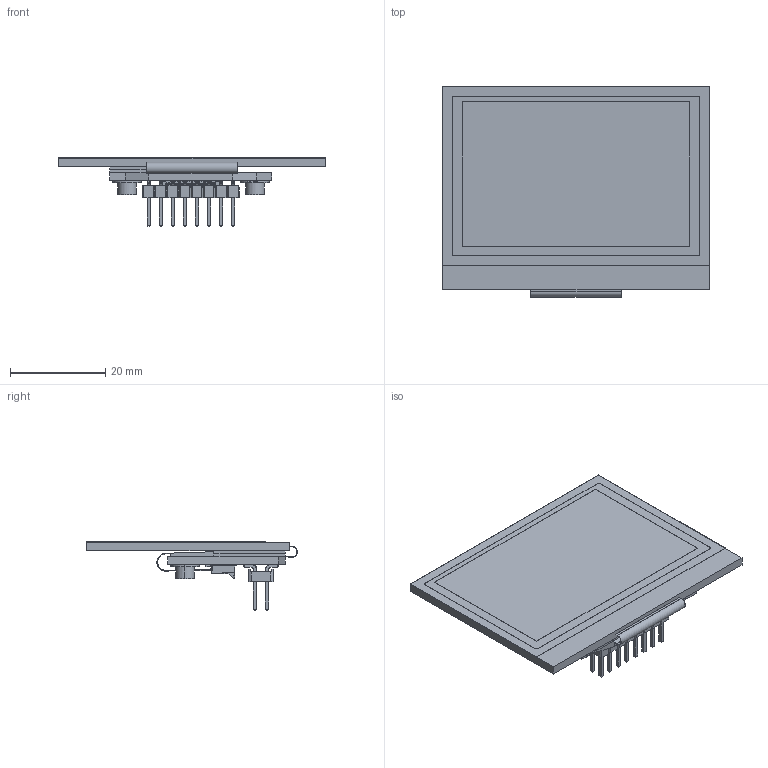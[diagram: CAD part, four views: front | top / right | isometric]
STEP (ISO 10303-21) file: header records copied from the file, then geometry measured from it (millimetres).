
FILE_DESCRIPTION (( 'STEP AP214' ), '1' );
FILE_NAME ('CFAG12864U3NFH-E1-1.STEP', '2021-02-23T22:46:44', ( '' ), ( '' ), 'SwSTEP 2.0', 'SolidWorks 2020', '' );
FILE_SCHEMA (( 'AUTOMOTIVE_DESIGN' ));
Length unit declared in the file: millimetre
Products named in the file (5): cfa_10110; CFPN_01712; VHB_Tape_10099_Short; CFAG12864U3NFH; CFAG12864U3NFH-E1-1
Assembly tree (6 placements, depth 2):
  CFAG12864U3NFH-E1-1
    CFAG12864U3NFH
    VHB_Tape_10099_Short  x2
    cfa_10110
    CFPN_01712  x2
Bounding box: 56 x 44.18 x 14.32 mm (x, y, z)
Volume: 6784.5 mm3; surface area: 15107 mm2
Topology: 37 solids, 37 shells, 2038 faces, 5587 edges, 3699 vertices
Faces by surface type: plane 1476, cylinder 550, bspline 8, cone 4
Entity records: 83435 total; most frequent: CARTESIAN_POINT 13575, ORIENTED_EDGE 11090, DIRECTION 10043, EDGE_CURVE 5545, VECTOR 3885, LINE 3885, VERTEX_POINT 3674, AXIS2_PLACEMENT_3D 3079
